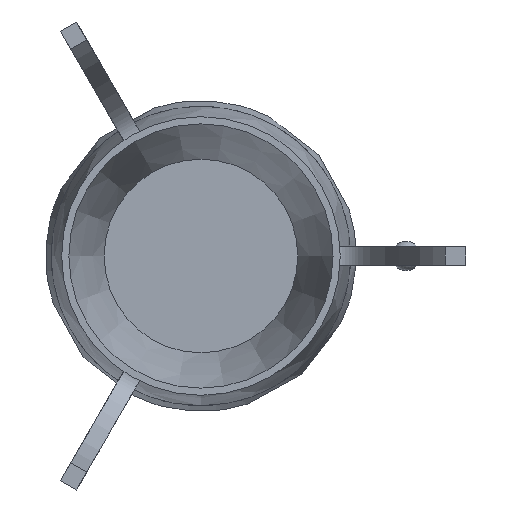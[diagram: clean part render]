
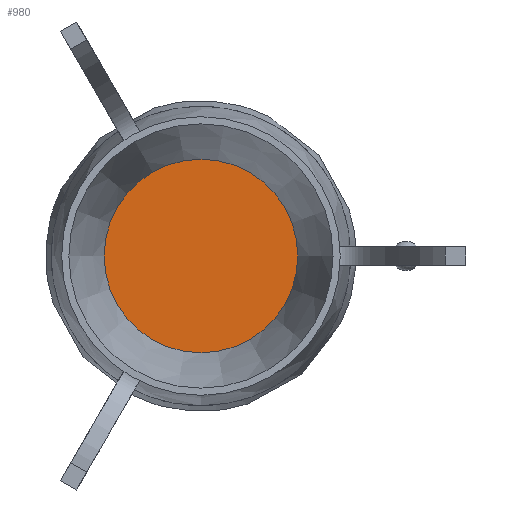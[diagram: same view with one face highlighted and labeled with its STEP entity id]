
A CAD part, front view. The second image highlights one B-rep face of the part: STEP entity #980.
In plain terms, the highlighted planar face has unit normal (0, -1, 0) as drawn and (0, 0, 1) by its records, which use the part's own axes.
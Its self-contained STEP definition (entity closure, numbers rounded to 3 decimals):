
#233=PLANE('',#1198);
#296=CIRCLE('',#1197,41.89);
#328=FACE_OUTER_BOUND('',#405,.T.);
#405=EDGE_LOOP('',(#782));
#509=VERTEX_POINT('',#1828);
#608=EDGE_CURVE('',#509,#509,#296,.T.);
#782=ORIENTED_EDGE('',*,*,#608,.F.);
#980=ADVANCED_FACE('',(#328),#233,.T.);
#1197=AXIS2_PLACEMENT_3D('',#1829,#1371,#1372);
#1198=AXIS2_PLACEMENT_3D('',#1830,#1373,#1374);
#1371=DIRECTION('center_axis',(0.,0.,-1.));
#1372=DIRECTION('ref_axis',(-1.,0.,0.));
#1373=DIRECTION('center_axis',(0.,0.,1.));
#1374=DIRECTION('ref_axis',(1.,0.,0.));
#1828=CARTESIAN_POINT('',(41.89,0.,3.));
#1829=CARTESIAN_POINT('Origin',(0.,0.,3.));
#1830=CARTESIAN_POINT('Origin',(0.,0.,3.));
